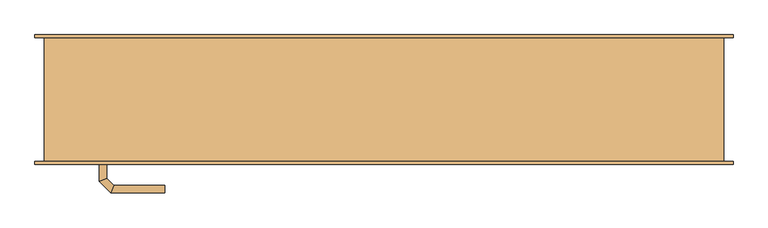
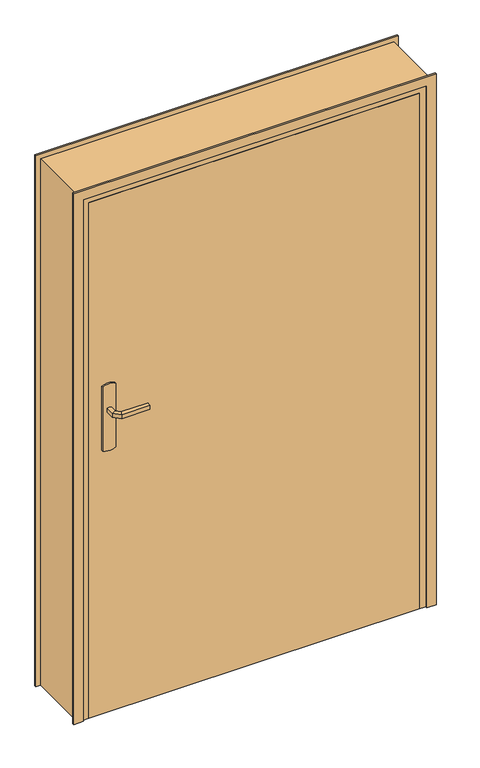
"""IFC4 building model written with IfcOpenShell, lengths in millimetres: door geometry, Porte métal : @_PP (1.03m x 1.8m)."""

import ifcopenshell
import ifcopenshell.guid

model = None  # the IFC model being written
_history = None  # IfcOwnerHistory: only IFC2X3 demands one
_inside = {}  # id of a spatial element -> (the spatial element, [elements in it])
_under = {}  # id of a project, library or spatial element -> (it, [spatial elements below it])
_declared = {}  # id of a project -> (the project, [libraries it declares])
_typed = {}  # id of a type object -> (the type object, [elements of that type])
_made_of = {}  # id of a material, layer set ... -> (it, [elements and type objects made of it])


def new_model(schema):
    """Start an empty IFC model of exactly this schema.

    Asked for "IFC4X3", IfcOpenShell would pick the latest addendum, in which some entities
    have other attributes; the version numbers below select the first issue.
    IFC2X3 requires an IfcOwnerHistory on every rooted entity: one is made here for all.
    """
    global model, _history
    if schema == "IFC4X3":
        model = ifcopenshell.file(schema_version=(4, 3, 0, 0))
    else:
        model = ifcopenshell.file(schema=schema)
    _inside.clear()
    _under.clear()
    _declared.clear()
    _typed.clear()
    _made_of.clear()
    _history = None
    if model.schema == "IFC2X3":
        org = make("IfcOrganization", Name="unknown")
        user = make(
            "IfcPersonAndOrganization",
            ThePerson=make("IfcPerson", FamilyName="unknown"),
            TheOrganization=org,
        )
        app = make(
            "IfcApplication",
            ApplicationDeveloper=org,
            Version="unknown",
            ApplicationFullName="unknown",
            ApplicationIdentifier="unknown",
        )
        _history = make(
            "IfcOwnerHistory",
            OwningUser=user,
            OwningApplication=app,
            ChangeAction="ADDED",
            CreationDate=0,
        )
    return model


def make(cls, **values):
    """One entity of the class cls with the attributes given. An attribute that is None is left unset."""
    return model.create_entity(
        cls, **{name: value for name, value in values.items() if value is not None}
    )


def rooted(cls, **values):
    """An entity with a GlobalId (a new one), such as an element, a storey or a relation."""
    return make(cls, GlobalId=ifcopenshell.guid.new(), OwnerHistory=_history, **values)


def si_unit(unit_type, name, prefix=None):
    """IfcSIUnit, for example si_unit("LENGTHUNIT", "METRE", prefix="MILLI")."""
    return make("IfcSIUnit", UnitType=unit_type, Prefix=prefix, Name=name)


def assignment(units):
    """IfcUnitAssignment: the units of a project."""
    return None if units is None else make("IfcUnitAssignment", Units=units)


def point(xyz):
    """IfcCartesianPoint."""
    return None if xyz is None else make("IfcCartesianPoint", Coordinates=xyz)


def direction(xyz):
    """IfcDirection."""
    return None if xyz is None else make("IfcDirection", DirectionRatios=xyz)


def frame(location, z_axis=None, x_axis=None):
    """IfcAxis2Placement3D, a coordinate frame: its origin and axes. An axis left out is left unset."""
    return make(
        "IfcAxis2Placement3D",
        Location=point(location),
        Axis=direction(z_axis),
        RefDirection=direction(x_axis),
    )


def frame_2d(location, x_axis=None):
    """IfcAxis2Placement2D, a coordinate frame in the plane: its origin and x axis."""
    return make(
        "IfcAxis2Placement2D", Location=point(location), RefDirection=direction(x_axis)
    )


def origin():
    """The frame at (0, 0, 0) with its axes left unset."""
    return frame((0.0, 0.0, 0.0))


def origin_with_axes():
    """The frame at (0, 0, 0) with the z axis (0, 0, 1) and the x axis (1, 0, 0) written out."""
    return frame((0.0, 0.0, 0.0), z_axis=(0.0, 0.0, 1.0), x_axis=(1.0, 0.0, 0.0))


def place(relative_to, where):
    """IfcLocalPlacement: puts the frame where relative to a parent placement (None: the world)."""
    return make(
        "IfcLocalPlacement", PlacementRelTo=relative_to, RelativePlacement=where
    )


def context(
    kind, dimensions, precision=None, world=None, true_north=None, identifier=None
):
    """IfcGeometricRepresentationContext, for example the 3D "Model" context."""
    return make(
        "IfcGeometricRepresentationContext",
        ContextIdentifier=identifier,
        ContextType=kind,
        CoordinateSpaceDimension=dimensions,
        Precision=precision,
        WorldCoordinateSystem=world,
        TrueNorth=true_north,
    )


def project(units=None, contexts=None):
    """IfcProject with its units and contexts."""
    return rooted(
        "IfcProject",
        Name="project",
        RepresentationContexts=contexts,
        UnitsInContext=assignment(units),
    )


def spatial(cls, under=None, at=None, **own):
    """A site, building, storey or space (cls), placed at a placement, below another one or the project."""
    s = rooted(cls, ObjectPlacement=at, **own)
    if under is not None:
        _under.setdefault(under.id(), (under, []))[1].append(s)
    return s


def polyline(points):
    """IfcPolyline through the points."""
    return make("IfcPolyline", Points=[point(p) for p in points])


def circle_curve(where, radius):
    """IfcCircle in the frame where."""
    return make("IfcCircle", Position=where, Radius=radius)


def ellipse_curve(where, semi_axis1, semi_axis2):
    """IfcEllipse in the frame where."""
    return make(
        "IfcEllipse", Position=where, SemiAxis1=semi_axis1, SemiAxis2=semi_axis2
    )


def trimmed(basis, trim1, trim2, sense, master):
    """IfcTrimmedCurve: the piece of a basis curve between two trims."""
    return make(
        "IfcTrimmedCurve",
        BasisCurve=basis,
        Trim1=trim1,
        Trim2=trim2,
        SenseAgreement=sense,
        MasterRepresentation=master,
    )


def segment(curve, same_sense, transition):
    """IfcCompositeCurveSegment."""
    return make(
        "IfcCompositeCurveSegment",
        Transition=transition,
        SameSense=same_sense,
        ParentCurve=curve,
    )


def composite_curve(segments, self_intersect=None):
    """IfcCompositeCurve: segments joined end to end."""
    return make("IfcCompositeCurve", Segments=segments, SelfIntersect=self_intersect)


def outline(outer, holes=None, kind="AREA"):
    """IfcArbitraryClosedProfileDef: a profile drawn as a closed curve; with holes, ...WithVoids."""
    if holes is None:
        return make("IfcArbitraryClosedProfileDef", ProfileType=kind, OuterCurve=outer)
    return make(
        "IfcArbitraryProfileDefWithVoids",
        ProfileType=kind,
        OuterCurve=outer,
        InnerCurves=holes,
    )


def extrude(swept, where, along, depth):
    """IfcExtrudedAreaSolid: the profile swept, set in the frame where, extruded along a direction by depth."""
    return make(
        "IfcExtrudedAreaSolid",
        SweptArea=swept,
        Position=where,
        ExtrudedDirection=direction(along),
        Depth=depth,
    )


def faces_of(points, faces, orient=None, outer=None):
    """IfcFace entities. A face is a list of loops; a loop is a list of indices into points, from 0.

    orient and outer hold one flag for each loop. By default every Orientation is true, the
    first loop of a face is its IfcFaceOuterBound and the others are IfcFaceBound.
    """
    made = []
    for i, loops in enumerate(faces):
        bounds = []
        for j, loop in enumerate(loops):
            is_outer = j == 0 if outer is None else outer[i][j]
            bounds.append(
                make(
                    "IfcFaceOuterBound" if is_outer else "IfcFaceBound",
                    Bound=make("IfcPolyLoop", Polygon=[points[k] for k in loop]),
                    Orientation=True if orient is None else orient[i][j],
                )
            )
        made.append(make("IfcFace", Bounds=bounds))
    return made


def faceted_brep(points, faces, orient=None, outer=None, voids=None):
    """IfcFacetedBrep: a solid bounded by flat faces; with voids (closed shells), ...WithVoids."""
    shared = [point(p) for p in points]
    hull = make("IfcClosedShell", CfsFaces=faces_of(shared, faces, orient, outer))
    if voids is None:
        return make("IfcFacetedBrep", Outer=hull)
    return make(
        "IfcFacetedBrepWithVoids",
        Outer=hull,
        Voids=[
            make(cls, CfsFaces=faces_of(shared, fs, o, b)) for cls, fs, o, b in voids
        ],
    )


def shape(context_of_items, identifier, shape_type, items):
    """IfcShapeRepresentation: the items that make up one representation, for example the "Body"."""
    return make(
        "IfcShapeRepresentation",
        ContextOfItems=context_of_items,
        RepresentationIdentifier=identifier,
        RepresentationType=shape_type,
        Items=items,
    )


def source(mapping_origin, context_of_items, identifier, shape_type, items):
    """IfcRepresentationMap: a shape defined once, which mapped items show again and again."""
    return make(
        "IfcRepresentationMap",
        MappingOrigin=mapping_origin,
        MappedRepresentation=shape(context_of_items, identifier, shape_type, items),
    )


def transform(
    local_origin,
    x_axis=None,
    y_axis=None,
    z_axis=None,
    scale=None,
    scale2=None,
    scale3=None,
    uniform=True,
):
    """IfcCartesianTransformationOperator3D, or its non-uniform kind. x_axis, y_axis, z_axis: its Axis1, 2, 3."""
    if uniform:
        return make(
            "IfcCartesianTransformationOperator3D",
            Axis1=direction(x_axis),
            Axis2=direction(y_axis),
            LocalOrigin=point(local_origin),
            Scale=scale,
            Axis3=direction(z_axis),
        )
    return make(
        "IfcCartesianTransformationOperator3DnonUniform",
        Axis1=direction(x_axis),
        Axis2=direction(y_axis),
        LocalOrigin=point(local_origin),
        Scale=scale,
        Axis3=direction(z_axis),
        Scale2=scale2,
        Scale3=scale3,
    )


def mapped(mapping_source, mapping_target):
    """IfcMappedItem: shows the shape of a source again, moved by a transform."""
    return make(
        "IfcMappedItem", MappingSource=mapping_source, MappingTarget=mapping_target
    )


def made_of(thing, what):
    """Note that an element or type object is made of a material, layer set ...; save() writes the relation."""
    if what is not None:
        _made_of.setdefault(what.id(), (what, []))[1].append(thing)
    return thing


def element(
    cls,
    number,
    at=None,
    inside=None,
    cuts=None,
    type_object=None,
    material=None,
    context=None,
    identifier="Body",
    shape_type=None,
    held_by="IfcProductDefinitionShape",
    body=None,
    shapes=None,
    **own,
):
    """One element of the class cls, such as IfcWall. Its Tag is "e" and its number.

    at: its placement. inside: the storey or other place that contains it. cuts: it is an
    opening in that element (IfcRelVoidsElement). A single representation is given by context,
    identifier, shape_type and body (its items); several are given by shapes. held_by: the class
    of the entity that holds the representations. save() writes the other relations.
    """
    e = rooted(cls, Tag="e%d" % number, ObjectPlacement=at, **own)
    if body is not None:
        shapes = [shape(context, identifier, shape_type, body)]
    if shapes is not None:
        e.Representation = make(held_by, Representations=shapes)
    if inside is not None:
        _inside.setdefault(inside.id(), (inside, []))[1].append(e)
    if cuts is not None:
        rooted(
            "IfcRelVoidsElement", RelatingBuildingElement=cuts, RelatedOpeningElement=e
        )
    if type_object is not None:
        _typed.setdefault(type_object.id(), (type_object, []))[1].append(e)
    return made_of(e, material)


def aggregate(whole, parts):
    """IfcRelAggregates: a whole, such as a stair, and the parts it consists of."""
    return rooted("IfcRelAggregates", RelatingObject=whole, RelatedObjects=parts)


def save(model, path):
    """Write the relations noted so far, then the file.

    IfcRelAggregates (storeys below a building ...), IfcRelContainedInSpatialStructure (elements
    in a storey), IfcRelDefinesByType, IfcRelAssociatesMaterial and IfcRelDeclares: one each for
    every whole, place, type object, material and project.
    """
    for whole, parts in _under.values():
        aggregate(whole, parts)
    for where, things in _inside.values():
        rooted(
            "IfcRelContainedInSpatialStructure",
            RelatedElements=things,
            RelatingStructure=where,
        )
    for kind, things in _typed.values():
        rooted("IfcRelDefinesByType", RelatedObjects=things, RelatingType=kind)
    for what, things in _made_of.values():
        rooted("IfcRelAssociatesMaterial", RelatedObjects=things, RelatingMaterial=what)
    for by, libraries in _declared.values():
        rooted("IfcRelDeclares", RelatingContext=by, RelatedDefinitions=libraries)
    model.write(path)


def plane_surface(at):
    """IfcPlane: the flat surface through the origin of the frame at, square to its z axis."""
    return make("IfcPlane", Position=at)


def cylinder_surface(at, radius):
    """IfcCylindricalSurface: all points at the distance radius from the z axis of the frame at."""
    return make("IfcCylindricalSurface", Position=at, Radius=radius)


def advanced_brep(points, edges, surfaces, faces):
    """IfcAdvancedBrep: a solid bounded by faces that lie on surfaces and meet in shared edges.

    An edge is (start, end): straight between two places in points (the first is 0);
    or (start, end, curve); or (start, end, curve, False) where it runs against its curve.
    A face is (place in surfaces, loops), or (place, loops, False) where it looks against
    its surface's normal. A loop lists edges by number (the first is 1), with a minus sign
    where the edge is run from its end to its start. The first loop is the outer one.
    """
    corners = [point(p) for p in points]
    vertices = [make("IfcVertexPoint", VertexGeometry=c) for c in corners]
    made = []
    for start, end, *more in edges:
        made.append(
            make(
                "IfcEdgeCurve",
                EdgeStart=vertices[start],
                EdgeEnd=vertices[end],
                EdgeGeometry=more[0] if more else make("IfcPolyline", Points=[corners[start], corners[end]]),
                SameSense=more[1] if len(more) > 1 else True,
            )
        )
    hull = []
    for where, loops, *sense in faces:
        bounds = []
        for j, loop in enumerate(loops):
            ring = [make("IfcOrientedEdge", EdgeElement=made[abs(k) - 1], Orientation=k > 0) for k in loop]
            bounds.append(
                make(
                    "IfcFaceOuterBound" if j == 0 else "IfcFaceBound",
                    Bound=make("IfcEdgeLoop", EdgeList=ring),
                    Orientation=True,
                )
            )
        hull.append(make("IfcAdvancedFace", Bounds=bounds, FaceSurface=surfaces[where], SameSense=sense[0] if sense else True))
    return make("IfcAdvancedBrep", Outer=make("IfcClosedShell", CfsFaces=hull))


def door_96e1eaa9(model_context):
    return source(origin(), model_context, "Body", "SolidModel", [
        extrude(outline(composite_curve([segment(trimmed(circle_curve(frame_2d((904.6410162, -490.0)), 40.0), [point((870.0, -510.0))], [point((870.0, -470.0))], False, "CARTESIAN"), True, "CONTINUOUS"), segment(polyline([(870.0, -470.0), (1080.0, -470.0)]), True, "CONTINUOUS"), segment(trimmed(circle_curve(frame_2d((1045.3589838, -490.0)), 40.0), [point((1080.0, -470.0))], [point((1080.0, -510.0))], False, "CARTESIAN"), True, "CONTINUOUS"), segment(polyline([(1080.0, -510.0), (870.0, -510.0)]), True, "CONTINUOUS")], self_intersect=False)), frame((0.0, -105.0, 0.0), z_axis=(0.0, 1.0, 0.0), x_axis=(0.0, 0.0, 1.0)), (0.0, 0.0, 1.0), 5.0),
        extrude(outline(composite_curve([segment(trimmed(circle_curve(frame_2d((1045.3589838, -490.0)), 40.0), [point((1080.0, -470.0))], [point((1080.0, -510.0))], False, "CARTESIAN"), True, "CONTINUOUS"), segment(polyline([(1080.0, -510.0), (870.0, -510.0)]), True, "CONTINUOUS"), segment(trimmed(circle_curve(frame_2d((904.6410162, -490.0)), 40.0), [point((870.0, -510.0))], [point((870.0, -470.0))], False, "CARTESIAN"), True, "CONTINUOUS"), segment(polyline([(870.0, -470.0), (1080.0, -470.0)]), True, "CONTINUOUS")], self_intersect=False)), frame((0.0, -60.0, 0.0), z_axis=(0.0, 1.0, 0.0), x_axis=(0.0, 0.0, 1.0)), (0.0, 0.0, 1.0), 5.0),
        advanced_brep(
        [(-496.0, -105.0, 1007.0), (-484.0, -105.0, 1007.0), (-484.0, -105.0, 993.0), (-496.0, -105.0, 993.0), (-496.0, -132.6509507, 1007.0), (-484.0, -127.680388, 1007.0), (-484.0, -127.680388, 993.0), (-496.0, -132.6509507, 993.0), (-477.62279, -151.0281607, 1007.0), (-472.6522273, -139.0281607, 1007.0), (-472.6522273, -139.0281607, 993.0), (-477.62279, -151.0281607, 993.0), (-389.9813594, -151.0281607, 1007.0), (-389.9813594, -151.0281607, 993.0), (-389.9813594, -139.0281607, 993.0), (-389.9813594, -139.0281607, 1007.0)],
        [
            (0, 1, circle_curve(frame((-490.0, -105.0, 986.9542278), z_axis=(0.0, 1.0, 0.0), x_axis=(1.0, 0.0, 0.0)), 20.9244589)),
            (1, 2),
            (2, 3, circle_curve(frame((-490.0, -105.0, 1013.0457722), z_axis=(0.0, 1.0, 0.0), x_axis=(1.0, 0.0, 0.0)), 20.9244589)),
            (3, 0),
            (0, 4),
            (4, 5, ellipse_curve(frame((-490.0, -130.1656693, 986.9542278), z_axis=(-0.3826834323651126, 0.9238795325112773, 0.0), x_axis=(0.9238795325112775, 0.38268343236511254, 0.0)), 22.6484711, 20.9244589)),
            (5, 1),
            (5, 6),
            (6, 2),
            (6, 7, ellipse_curve(frame((-490.0, -130.1656693, 1013.0457722), z_axis=(-0.3826834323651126, 0.9238795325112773, 0.0), x_axis=(0.9238795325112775, 0.38268343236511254, 0.0)), 22.6484711, 20.9244589)),
            (7, 3),
            (7, 4),
            (4, 8),
            (8, 9, ellipse_curve(frame((-475.1375086, -145.0281607, 986.9542278), z_axis=(-0.9238795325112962, 0.38268343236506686, 0.0), x_axis=(0.3826834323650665, 0.9238795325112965, 0.0)), 22.6484711, 20.9244589)),
            (9, 5),
            (9, 10),
            (10, 6),
            (10, 11, ellipse_curve(frame((-475.1375086, -145.0281607, 1013.0457722), z_axis=(-0.9238795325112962, 0.38268343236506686, 0.0), x_axis=(0.3826834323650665, 0.9238795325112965, 0.0)), 22.6484711, 20.9244589)),
            (11, 7),
            (11, 8),
            (12, 13),
            (13, 14, circle_curve(frame((-389.9813594, -145.0281607, 1013.0457722), z_axis=(1.0, 0.0, 0.0), x_axis=(0.0, 1.0, 0.0)), 20.9244589)),
            (14, 15),
            (15, 12, circle_curve(frame((-389.9813594, -145.0281607, 986.9542278), z_axis=(1.0, 0.0, 0.0), x_axis=(0.0, 1.0, 0.0)), 20.9244589)),
            (8, 12),
            (15, 9),
            (14, 10),
            (13, 11),
        ],
        [
            plane_surface(frame((-499.2195445, -105.0, 1000.0), z_axis=(0.0, 1.0, 0.0), x_axis=(0.0, 0.0, -1.0))),
            cylinder_surface(frame((-490.0, -105.0, 986.9542278), z_axis=(0.0, 1.0, 0.0), x_axis=(1.0, 0.0, 0.0)), 20.9244589),
            plane_surface(frame((-484.0, -105.0, 1007.0), z_axis=(1.0, 0.0, 0.0), x_axis=(0.0, -1.0, 0.0))),
            cylinder_surface(frame((-490.0, -105.0, 1013.0457722), z_axis=(0.0, 1.0, 0.0), x_axis=(1.0, 0.0, 0.0)), 20.9244589),
            plane_surface(frame((-496.0, -105.0, 993.0), z_axis=(-1.0, 0.0, 0.0), x_axis=(0.0, -1.0, 0.0))),
            cylinder_surface(frame((-490.0, -130.1656693, 986.9542278), z_axis=(-0.7071067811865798, 0.7071067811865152, 0.0), x_axis=(0.7071067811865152, 0.7071067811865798, 0.0)), 20.9244589),
            plane_surface(frame((-484.0, -127.680388, 1007.0), z_axis=(0.7071067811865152, 0.7071067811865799, 0.0), x_axis=(0.7071067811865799, -0.7071067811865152, 0.0))),
            cylinder_surface(frame((-490.0, -130.1656693, 1013.0457722), z_axis=(-0.7071067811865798, 0.7071067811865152, 0.0), x_axis=(0.7071067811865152, 0.7071067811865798, 0.0)), 20.9244589),
            plane_surface(frame((-496.0, -132.6509507, 993.0), z_axis=(-0.7071067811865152, -0.7071067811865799, 0.0), x_axis=(0.7071067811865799, -0.7071067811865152, 0.0))),
            plane_surface(frame((-389.9813594, -145.0281607, 990.7804555), z_axis=(1.0, 0.0, 0.0), x_axis=(0.0, 1.0, 0.0))),
            cylinder_surface(frame((-475.1375086, -145.0281607, 986.9542278), z_axis=(-1.0, 0.0, 0.0), x_axis=(0.0, 1.0, 0.0)), 20.9244589),
            plane_surface(frame((-472.6522273, -139.0281607, 1007.0), z_axis=(0.0, 1.0, 0.0), x_axis=(1.0, 0.0, 0.0))),
            cylinder_surface(frame((-475.1375086, -145.0281607, 1013.0457722), z_axis=(-1.0, 0.0, 0.0), x_axis=(0.0, 1.0, 0.0)), 20.9244589),
            plane_surface(frame((-477.62279, -151.0281607, 993.0), z_axis=(0.0, -1.0, 0.0), x_axis=(1.0, 0.0, 0.0))),
        ],
        [
            (0, [[1, 2, 3, 4]]),
            (1, [[-1, 5, 6, 7]]),
            (2, [[-2, -7, 8, 9]]),
            (3, [[-3, -9, 10, 11]]),
            (4, [[-4, -11, 12, -5]]),
            (5, [[-6, 13, 14, 15]]),
            (6, [[-8, -15, 16, 17]]),
            (7, [[-10, -17, 18, 19]]),
            (8, [[-12, -19, 20, -13]]),
            (9, [[21, 22, 23, 24]]),
            (10, [[-14, 25, -24, 26]]),
            (11, [[-16, -26, -23, 27]]),
            (12, [[-18, -27, -22, 28]]),
            (13, [[-20, -28, -21, -25]]),
        ],
    ),
        advanced_brep(
        [(-484.0, -55.0, 993.0), (-484.0, -55.0, 1007.0), (-496.0, -55.0, 1007.0), (-496.0, -55.0, 993.0), (-484.0, -32.5147955, 993.0), (-484.0, -32.5147955, 1007.0), (-496.0, -27.5442327, 1007.0), (-496.0, -27.5442327, 993.0), (-472.5147186, -21.0295141, 993.0), (-472.5147186, -21.0295141, 1007.0), (-477.4852814, -9.0295141, 1007.0), (-477.4852814, -9.0295141, 993.0), (-389.9542163, -21.0295141, 993.0), (-389.9542163, -9.0295141, 993.0), (-389.9542163, -9.0295141, 1007.0), (-389.9542163, -21.0295141, 1007.0)],
        [
            (0, 1),
            (1, 2, circle_curve(frame((-490.0, -55.0, 986.9542278), z_axis=(0.0, -1.0, 0.0), x_axis=(-1.0, 0.0, 0.0)), 20.9244589)),
            (2, 3),
            (3, 0, circle_curve(frame((-490.0, -55.0, 1013.0457722), z_axis=(0.0, -1.0, 0.0), x_axis=(-1.0, 0.0, 0.0)), 20.9244589)),
            (0, 4),
            (4, 5),
            (5, 1),
            (5, 6, ellipse_curve(frame((-490.0, -30.0295141, 986.9542278), z_axis=(-0.3826834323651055, -0.9238795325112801, 0.0), x_axis=(0.9238795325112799, -0.3826834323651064, 0.0)), 22.6484711, 20.9244589)),
            (6, 2),
            (6, 7),
            (7, 3),
            (7, 4, ellipse_curve(frame((-490.0, -30.0295141, 1013.0457722), z_axis=(-0.3826834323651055, -0.9238795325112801, 0.0), x_axis=(0.9238795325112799, -0.3826834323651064, 0.0)), 22.6484711, 20.9244589)),
            (4, 8),
            (8, 9),
            (9, 5),
            (9, 10, ellipse_curve(frame((-475.0, -15.0295141, 986.9542278), z_axis=(-0.9238795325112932, -0.382683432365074, 0.0), x_axis=(0.3826834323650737, -0.9238795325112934, 0.0)), 22.6484711, 20.9244589)),
            (10, 6),
            (10, 11),
            (11, 7),
            (11, 8, ellipse_curve(frame((-475.0, -15.0295141, 1013.0457722), z_axis=(-0.9238795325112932, -0.382683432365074, 0.0), x_axis=(0.3826834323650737, -0.9238795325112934, 0.0)), 22.6484711, 20.9244589)),
            (12, 13, circle_curve(frame((-389.9542163, -15.0295141, 1013.0457722), z_axis=(1.0, 0.0, 0.0), x_axis=(0.0, 1.0, 0.0)), 20.9244589)),
            (13, 14),
            (14, 15, circle_curve(frame((-389.9542163, -15.0295141, 986.9542278), z_axis=(1.0, 0.0, 0.0), x_axis=(0.0, 1.0, 0.0)), 20.9244589)),
            (15, 12),
            (8, 12),
            (15, 9),
            (14, 10),
            (13, 11),
        ],
        [
            plane_surface(frame((-499.2195445, -55.0, 1000.0), z_axis=(0.0, -1.0, 0.0), x_axis=(0.0, 0.0, 1.0))),
            plane_surface(frame((-484.0, -55.0, 993.0), z_axis=(1.0, 0.0, 0.0), x_axis=(0.0, 1.0, 0.0))),
            cylinder_surface(frame((-490.0, -55.0, 986.9542278), z_axis=(0.0, -1.0, 0.0), x_axis=(-1.0, 0.0, 0.0)), 20.9244589),
            plane_surface(frame((-496.0, -55.0, 1007.0), z_axis=(-1.0, 0.0, 0.0), x_axis=(0.0, 1.0, 0.0))),
            cylinder_surface(frame((-490.0, -55.0, 1013.0457722), z_axis=(0.0, -1.0, 0.0), x_axis=(-1.0, 0.0, 0.0)), 20.9244589),
            plane_surface(frame((-484.0, -32.5147955, 993.0), z_axis=(0.7071067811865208, -0.7071067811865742, 0.0), x_axis=(0.7071067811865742, 0.7071067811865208, 0.0))),
            cylinder_surface(frame((-490.0, -30.0295141, 986.9542278), z_axis=(-0.7071067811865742, -0.7071067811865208, 0.0), x_axis=(-0.7071067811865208, 0.7071067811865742, 0.0)), 20.9244589),
            plane_surface(frame((-496.0, -27.5442327, 1007.0), z_axis=(-0.7071067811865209, 0.7071067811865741, 0.0), x_axis=(0.7071067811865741, 0.7071067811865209, 0.0))),
            cylinder_surface(frame((-490.0, -30.0295141, 1013.0457722), z_axis=(-0.7071067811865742, -0.7071067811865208, 0.0), x_axis=(-0.7071067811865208, 0.7071067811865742, 0.0)), 20.9244589),
            plane_surface(frame((-389.9542163, -15.0295141, 990.7804555), z_axis=(1.0, 0.0, 0.0), x_axis=(0.0, 1.0, 0.0))),
            plane_surface(frame((-472.5147186, -21.0295141, 993.0), z_axis=(0.0, -1.0, 0.0), x_axis=(1.0, 0.0, 0.0))),
            cylinder_surface(frame((-475.0, -15.0295141, 986.9542278), z_axis=(-1.0, 0.0, 0.0), x_axis=(0.0, 1.0, 0.0)), 20.9244589),
            plane_surface(frame((-477.4852814, -9.0295141, 1007.0), z_axis=(0.0, 1.0, 0.0), x_axis=(1.0, 0.0, 0.0))),
            cylinder_surface(frame((-475.0, -15.0295141, 1013.0457722), z_axis=(-1.0, 0.0, 0.0), x_axis=(0.0, 1.0, 0.0)), 20.9244589),
        ],
        [
            (0, [[1, 2, 3, 4]]),
            (1, [[-1, 5, 6, 7]]),
            (2, [[-2, -7, 8, 9]]),
            (3, [[-3, -9, 10, 11]]),
            (4, [[-4, -11, 12, -5]]),
            (5, [[-6, 13, 14, 15]]),
            (6, [[-8, -15, 16, 17]]),
            (7, [[-10, -17, 18, 19]]),
            (8, [[-12, -19, 20, -13]]),
            (9, [[21, 22, 23, 24]]),
            (10, [[-14, 25, -24, 26]]),
            (11, [[-16, -26, -23, 27]]),
            (12, [[-18, -27, -22, 28]]),
            (13, [[-20, -28, -21, -25]]),
        ],
    ),
        extrude(outline(polyline([(-550.0, -60.0), (480.0, -60.0), (480.0, -100.0), (-550.0, -100.0), (-550.0, -60.0)])), origin_with_axes(), (0.0, 0.0, 1.0), 1700.0),
        faceted_brep([(-585.0, -100.0, 0.0), (-585.0, 100.0, 0.0), (-535.0, 100.0, 0.0), (-535.0, -60.0, 0.0), (-550.0, -60.0, 0.0), (-550.0, -100.0, 0.0), (-585.0, -100.0, 1735.0), (-585.0, 100.0, 1735.0), (515.0, 100.0, 1735.0), (515.0, 100.0, 0.0), (465.0, 100.0, 0.0), (465.0, 100.0, 1685.0), (-535.0, 100.0, 1685.0), (-535.0, -60.0, 1685.0), (465.0, -60.0, 1685.0), (465.0, -60.0, 0.0), (480.0, -60.0, 0.0), (480.0, -60.0, 1700.0), (-550.0, -60.0, 1700.0), (-550.0, -100.0, 1700.0), (480.0, -100.0, 1700.0), (480.0, -100.0, 0.0), (515.0, -100.0, 0.0), (515.0, -100.0, 1735.0)], [[[0, 1, 2, 3, 4, 5]], [[1, 0, 6, 7]], [[2, 1, 7, 8, 9, 10, 11, 12]], [[3, 2, 12, 13]], [[4, 3, 13, 14, 15, 16, 17, 18]], [[5, 4, 18, 19]], [[0, 5, 19, 20, 21, 22, 23, 6]], [[8, 23, 22, 9]], [[22, 21, 16, 15, 10, 9]], [[14, 11, 10, 15]], [[20, 17, 16, 21]], [[7, 6, 23, 8]], [[13, 12, 11, 14]], [[19, 18, 17, 20]]]),
        extrude(outline(polyline([(0.0, -600.0), (0.0, -570.0), (1720.0, -570.0), (1720.0, 500.0), (0.0, 500.0), (0.0, 530.0), (1750.0, 530.0), (1750.0, -600.0), (0.0, -600.0)])), frame((0.0, -105.0, 0.0), z_axis=(0.0, 1.0, 0.0), x_axis=(0.0, 0.0, 1.0)), (0.0, 0.0, 1.0), 5.0),
        extrude(outline(polyline([(0.0, -600.0), (0.0, -570.0), (1720.0, -570.0), (1720.0, 500.0), (0.0, 500.0), (0.0, 530.0), (1750.0, 530.0), (1750.0, -600.0), (0.0, -600.0)])), frame((0.0, 100.0, 0.0), z_axis=(0.0, 1.0, 0.0), x_axis=(0.0, 0.0, 1.0)), (0.0, 0.0, 1.0), 5.0),
    ])


if __name__ == "__main__":
    model = new_model("IFC4")
    model_context = context("Model", 3, world=origin())
    ifc_project = project(units=[si_unit("LENGTHUNIT", "METRE", prefix="MILLI")], contexts=[model_context])
    site = spatial("IfcSite", under=ifc_project)
    building = spatial("IfcBuilding", under=site)
    placement = place(None, origin())
    door_shape = door_96e1eaa9(model_context)
    element("IfcDoor", 1, ObjectType="Porte métal : @_PP (1.03m x 1.8m)", at=placement, inside=building, context=model_context, shape_type="MappedRepresentation", body=[
        mapped(door_shape, transform((0.0, 0.0, 0.0), x_axis=(1.0, 0.0, 0.0), y_axis=(0.0, 1.0, 0.0), z_axis=(0.0, 0.0, 1.0))),
    ])
    save(model, "model.ifc")
